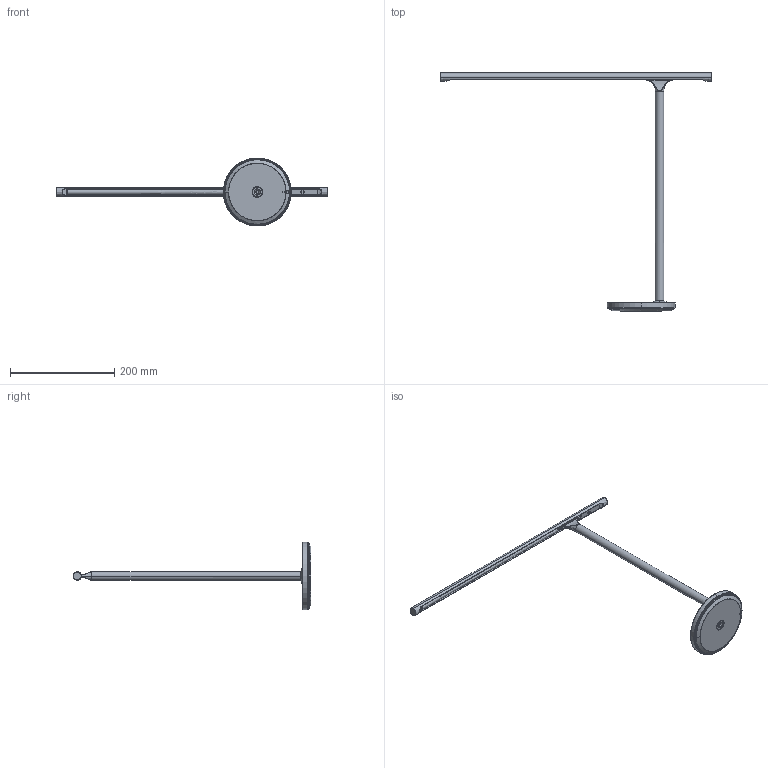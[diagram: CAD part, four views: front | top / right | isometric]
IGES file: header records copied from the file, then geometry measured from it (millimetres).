
Start section: SolidWorks IGES file using analytic representation for surfaces
Global section: file name: C:\Users\scott\Dropbox\Rakumba Industrial Design\PRODUCT\2 DEVELOPMENT\GALLERY\CAD\Gallery Lightweight CAD\Gallery - Architects Lamp.IGS; native system: SolidWorks 2017; preprocessor: SolidWorks 2017; author: scott; date: 240403.174350; units: millimetre
Bounding box: 520 x 455.5 x 130 mm (x, y, z)
Surface area: 100996.5 mm2 (no closed solid volume)
Topology: 0 solids, 0 shells, 233 faces, 3662 edges, 3656 vertices
Faces by surface type: bspline 146, revolution 87
